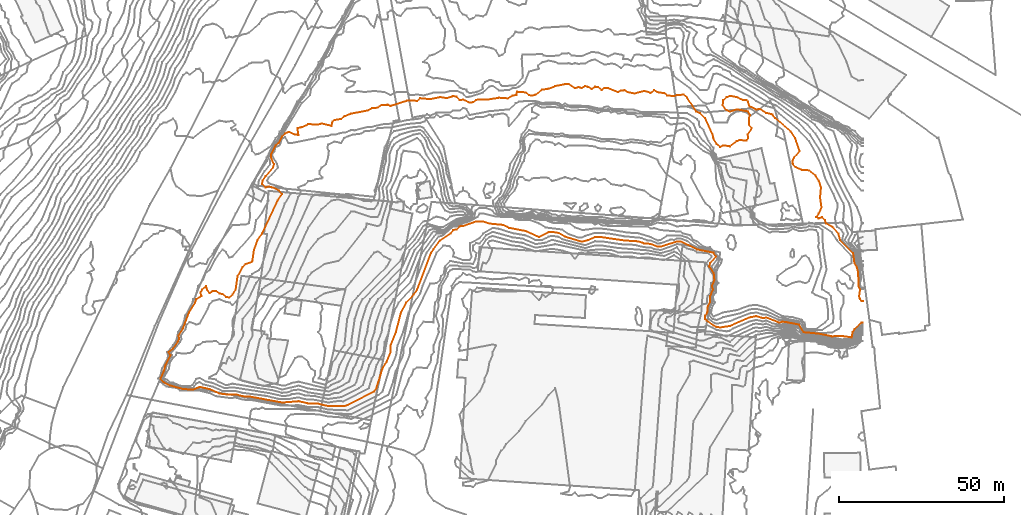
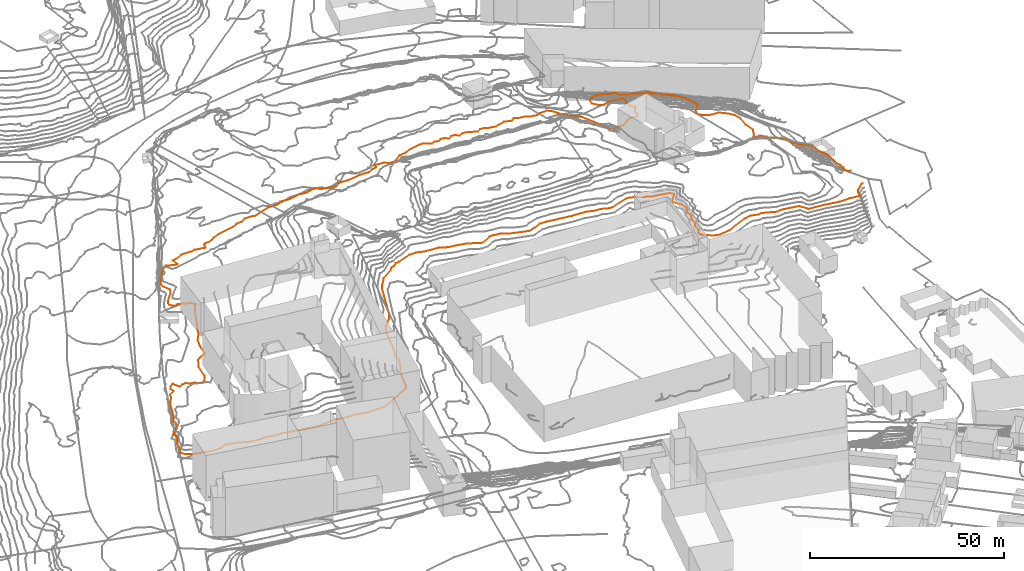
# Not in any storey, part 269 of 419: 1 proxy.
"""IFC2X3 model written with IfcOpenShell, lengths in metres."""

from ifc_helpers import new_model, entity, si_unit, frame, origin_with_axes, place, context, subcontext, project, element, save


model = new_model("IFC2X3")

# Units and contexts
model_context = context("Model", 3, precision=1e-05, world=origin_with_axes())
body_context = subcontext(model_context, "Body", "Model", "MODEL_VIEW")
ifc_project = project(units=[si_unit("AREAUNIT", "SQUARE_METRE"), si_unit("LENGTHUNIT", "METRE")], contexts=[model_context])

# Proxy
proxy_placement = place(None, frame((763.1907342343, 415.8976909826, 78.0), z_axis=(0.0, 0.0, 1.0), x_axis=(1.0, 0.0, 0.0)))
element("IfcBuildingElementProxy", 1, at=proxy_placement, Name="Contour 78.0 m", ObjectType="NOTDEFINED", context=body_context, shape_type="GeometricCurveSet", body=[
    entity("IfcGeometricCurveSet", [entity("IfcPolyline", [entity("IfcCartesianPoint", [213.4012861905, 16.9600016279, 0.0]), entity("IfcCartesianPoint", [212.9012861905, 16.9600016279, 0.0]), entity("IfcCartesianPoint", [210.7599845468, 15.0, 0.0]), entity("IfcCartesianPoint", [210.174395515, 14.0, 0.0]), entity("IfcCartesianPoint", [209.9012861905, 12.444444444, 0.0]), entity("IfcCartesianPoint", [206.9012861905, 12.8399963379, 0.0]), entity("IfcCartesianPoint", [203.9012861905, 12.7500007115, 0.0]), entity("IfcCartesianPoint", [199.9012861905, 13.5521478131, 0.0]), entity("IfcCartesianPoint", [195.3507264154, 14.0, 0.0]), entity("IfcCartesianPoint", [193.9012861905, 16.3101609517, 0.0]), entity("IfcCartesianPoint", [189.9012861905, 17.08556333, 0.0]), entity("IfcCartesianPoint", [188.9012861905, 17.1791897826, 0.0]), entity("IfcCartesianPoint", [187.9012861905, 16.8982045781, 0.0]), entity("IfcCartesianPoint", [183.9012861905, 18.4666666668, 0.0]), entity("IfcCartesianPoint", [182.9012861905, 18.2608677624, 0.0]), entity("IfcCartesianPoint", [180.9012861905, 18.8666638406, 0.0]), entity("IfcCartesianPoint", [178.9012861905, 18.51219308, 0.0]), entity("IfcCartesianPoint", [172.9012861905, 15.9117683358, 0.0]), entity("IfcCartesianPoint", [169.9012861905, 15.4333319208, 0.0]), entity("IfcCartesianPoint", [168.9012861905, 15.6285730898, 0.0]), entity("IfcCartesianPoint", [167.9012861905, 16.0175409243, 0.0]), entity("IfcCartesianPoint", [165.9012861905, 17.5242733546, 0.0]), entity("IfcCartesianPoint", [165.4161371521, 18.0, 0.0]), entity("IfcCartesianPoint", [165.3622789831, 19.0, 0.0]), entity("IfcCartesianPoint", [166.0580906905, 20.0, 0.0]), entity("IfcCartesianPoint", [166.2127610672, 22.0, 0.0]), entity("IfcCartesianPoint", [166.9012861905, 23.1395291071, 0.0]), entity("IfcCartesianPoint", [166.956041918, 25.0, 0.0]), entity("IfcCartesianPoint", [167.729313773, 27.0, 0.0]), entity("IfcCartesianPoint", [167.4710069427, 28.0, 0.0]), entity("IfcCartesianPoint", [168.2029741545, 30.0, 0.0]), entity("IfcCartesianPoint", [168.0184525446, 32.0, 0.0]), entity("IfcCartesianPoint", [166.6361702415, 34.0, 0.0]), entity("IfcCartesianPoint", [166.9012861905, 34.9661071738, 0.0]), entity("IfcCartesianPoint", [168.6512861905, 37.0, 0.0]), entity("IfcCartesianPoint", [167.9012861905, 38.1228065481, 0.0]), entity("IfcCartesianPoint", [162.9012861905, 39.1298687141, 0.0]), entity("IfcCartesianPoint", [157.9012861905, 41.5826063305, 0.0]), entity("IfcCartesianPoint", [156.9012861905, 41.5897427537, 0.0]), entity("IfcCartesianPoint", [151.9012861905, 39.959182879, 0.0]), entity("IfcCartesianPoint", [150.9012861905, 39.9719637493, 0.0]), entity("IfcCartesianPoint", [148.9012861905, 40.787236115, 0.0]), entity("IfcCartesianPoint", [146.9012861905, 40.9756138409, 0.0]), entity("IfcCartesianPoint", [144.9012861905, 41.5925929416, 0.0]), entity("IfcCartesianPoint", [140.9012861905, 41.8395090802, 0.0]), entity("IfcCartesianPoint", [133.9012861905, 42.8480979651, 0.0]), entity("IfcCartesianPoint", [131.9012861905, 42.897433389, 0.0]), entity("IfcCartesianPoint", [129.9012861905, 41.9871767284, 0.0]), entity("IfcCartesianPoint", [127.9012861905, 41.4732152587, 0.0]), entity("IfcCartesianPoint", [122.9012861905, 42.9793847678, 0.0]), entity("IfcCartesianPoint", [120.9012861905, 44.1264370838, 0.0]), entity("IfcCartesianPoint", [118.9012861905, 44.4404773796, 0.0]), entity("IfcCartesianPoint", [117.9012861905, 44.3866678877, 0.0]), entity("IfcCartesianPoint", [114.9012861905, 42.8640781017, 0.0]), entity("IfcCartesianPoint", [110.9012861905, 44.7073195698, 0.0]), entity("IfcCartesianPoint", [105.9012861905, 45.6875011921, 0.0]), entity("IfcCartesianPoint", [103.9012861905, 46.6000061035, 0.0]), entity("IfcCartesianPoint", [99.9012861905, 46.9629556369, 0.0]), entity("IfcCartesianPoint", [97.9012861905, 47.6499961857, 0.0]), entity("IfcCartesianPoint", [95.9012861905, 47.6428610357, 0.0]), entity("IfcCartesianPoint", [91.9012861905, 46.2592576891, 0.0]), entity("IfcCartesianPoint", [90.9012861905, 46.1519595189, 0.0]), entity("IfcCartesianPoint", [89.9012861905, 45.2500015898, 0.0]), entity("IfcCartesianPoint", [88.9335506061, 45.0, 0.0]), entity("IfcCartesianPoint", [88.0679528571, 44.0, 0.0]), entity("IfcCartesianPoint", [84.9012861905, 41.9090858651, 0.0]), entity("IfcCartesianPoint", [82.9012861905, 39.2727285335, 0.0]), entity("IfcCartesianPoint", [82.1235131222, 38.0, 0.0]), entity("IfcCartesianPoint", [77.9481593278, 27.0, 0.0]), entity("IfcCartesianPoint", [76.9012861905, 25.3902493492, 0.0]), entity("IfcCartesianPoint", [74.6512861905, 23.0, 0.0]), entity("IfcCartesianPoint", [73.0175722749, 20.0, 0.0]), entity("IfcCartesianPoint", [71.5099804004, 14.0, 0.0]), entity("IfcCartesianPoint", [69.8620766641, 10.0, 0.0]), entity("IfcCartesianPoint", [69.881281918, 8.0, 0.0]), entity("IfcCartesianPoint", [68.6404101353, 5.0, 0.0]), entity("IfcCartesianPoint", [67.390653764, 3.0, 0.0]), entity("IfcCartesianPoint", [65.5751952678, -3.0, 0.0]), entity("IfcCartesianPoint", [64.9012861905, -4.000001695, 0.0]), entity("IfcCartesianPoint", [56.9012861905, -8.050845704, 0.0]), entity("IfcCartesianPoint", [55.9012861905, -8.424997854, 0.0]), entity("IfcCartesianPoint", [50.9012861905, -8.4361729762, 0.0]), entity("IfcCartesianPoint", [47.9012861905, -7.7291641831, 0.0]), entity("IfcCartesianPoint", [44.9012861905, -7.6067430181, 0.0]), entity("IfcCartesianPoint", [41.9012861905, -6.9642870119, 0.0]), entity("IfcCartesianPoint", [36.9012861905, -7.3529402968, 0.0]), entity("IfcCartesianPoint", [26.9012861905, -5.5145625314, 0.0]), entity("IfcCartesianPoint", [24.9012861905, -5.447917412, 0.0]), entity("IfcCartesianPoint", [22.9012861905, -4.871289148, 0.0]), entity("IfcCartesianPoint", [20.9012861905, -4.9795951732, 0.0]), entity("IfcCartesianPoint", [17.9012861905, -4.6346183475, 0.0]), entity("IfcCartesianPoint", [14.9012861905, -3.2978702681, 0.0]), entity("IfcCartesianPoint", [11.9012861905, -2.6029462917, 0.0]), entity("IfcCartesianPoint", [9.9012861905, -3.4369372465, 0.0]), entity("IfcCartesianPoint", [6.9012861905, -3.2571411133, 0.0]), entity("IfcCartesianPoint", [2.9012861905, -2.1863372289, 0.0]), entity("IfcCartesianPoint", [0.9012861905, -1.1895432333, 0.0]), entity("IfcCartesianPoint", [0.0, 0.0, 0.0]), entity("IfcCartesianPoint", [1.0133936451, 2.0, 0.0]), entity("IfcCartesianPoint", [1.5139340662, 4.0, 0.0]), entity("IfcCartesianPoint", [3.1012861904, 7.0, 0.0]), entity("IfcCartesianPoint", [2.4521635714, 8.0, 0.0]), entity("IfcCartesianPoint", [3.7793340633, 9.0, 0.0]), entity("IfcCartesianPoint", [5.2526362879, 11.0, 0.0]), entity("IfcCartesianPoint", [5.6560029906, 12.0, 0.0]), entity("IfcCartesianPoint", [5.5504086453, 13.0, 0.0]), entity("IfcCartesianPoint", [6.7557146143, 15.0, 0.0]), entity("IfcCartesianPoint", [8.6383761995, 20.0, 0.0]), entity("IfcCartesianPoint", [10.5501411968, 23.0, 0.0]), entity("IfcCartesianPoint", [10.8737642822, 24.0, 0.0]), entity("IfcCartesianPoint", [12.4665093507, 25.0, 0.0]), entity("IfcCartesianPoint", [12.186990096, 26.0, 0.0]), entity("IfcCartesianPoint", [12.7089683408, 27.0, 0.0]), entity("IfcCartesianPoint", [13.9012861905, 28.0000090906, 0.0]), entity("IfcCartesianPoint", [14.1740008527, 27.0, 0.0]), entity("IfcCartesianPoint", [14.9012861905, 25.9166507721, 0.0]), entity("IfcCartesianPoint", [15.9012861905, 26.434784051, 0.0]), entity("IfcCartesianPoint", [16.9012861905, 26.441175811, 0.0]), entity("IfcCartesianPoint", [17.9012861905, 25.7460279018, 0.0]), entity("IfcCartesianPoint", [18.9012861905, 25.566036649, 0.0]), entity("IfcCartesianPoint", [19.9012861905, 24.7058805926, 0.0]), entity("IfcCartesianPoint", [20.9012861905, 24.5135163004, 0.0]), entity("IfcCartesianPoint", [21.9012861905, 25.4285776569, 0.0]), entity("IfcCartesianPoint", [22.8457188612, 27.0, 0.0]), entity("IfcCartesianPoint", [23.4306821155, 31.0, 0.0]), entity("IfcCartesianPoint", [24.9012861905, 33.8000305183, 0.0]), entity("IfcCartesianPoint", [25.9012861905, 34.7000076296, 0.0]), entity("IfcCartesianPoint", [27.9012861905, 35.39996948, 0.0]), entity("IfcCartesianPoint", [28.4012736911, 39.0, 0.0]), entity("IfcCartesianPoint", [29.4568511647, 42.0, 0.0]), entity("IfcCartesianPoint", [30.8718684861, 44.0, 0.0]), entity("IfcCartesianPoint", [35.5591856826, 54.0, 0.0]), entity("IfcCartesianPoint", [36.9012824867, 56.0, 0.0]), entity("IfcCartesianPoint", [36.0777514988, 57.0, 0.0]), entity("IfcCartesianPoint", [33.9012821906, 58.0, 0.0]), entity("IfcCartesianPoint", [32.9012861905, 58.2232137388, 0.0]), entity("IfcCartesianPoint", [31.8642418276, 58.0, 0.0]), entity("IfcCartesianPoint", [30.8451029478, 59.0, 0.0]), entity("IfcCartesianPoint", [31.0423128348, 60.0, 0.0]), entity("IfcCartesianPoint", [31.9012861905, 61.3461566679, 0.0]), entity("IfcCartesianPoint", [34.15935547, 64.0, 0.0]), entity("IfcCartesianPoint", [34.4976156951, 65.0, 0.0]), entity("IfcCartesianPoint", [33.6396050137, 67.0, 0.0]), entity("IfcCartesianPoint", [33.5497508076, 68.0, 0.0]), entity("IfcCartesianPoint", [34.9012861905, 70.6475764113, 0.0]), entity("IfcCartesianPoint", [35.9012861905, 71.4634131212, 0.0]), entity("IfcCartesianPoint", [36.9012861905, 73.3715584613, 0.0]), entity("IfcCartesianPoint", [37.9012861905, 74.3557715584, 0.0]), entity("IfcCartesianPoint", [38.9012861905, 74.8196713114, 0.0]), entity("IfcCartesianPoint", [40.9012861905, 74.0000249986, 0.0]), entity("IfcCartesianPoint", [41.9012861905, 73.8888700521, 0.0]), entity("IfcCartesianPoint", [41.60129382, 76.0, 0.0]), entity("IfcCartesianPoint", [42.9012861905, 76.2272853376, 0.0]), entity("IfcCartesianPoint", [44.9012861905, 77.1538235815, 0.0]), entity("IfcCartesianPoint", [47.9012861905, 77.0769366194, 0.0]), entity("IfcCartesianPoint", [48.9012861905, 77.357166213, 0.0]), entity("IfcCartesianPoint", [51.9012861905, 76.6665818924, 0.0]), entity("IfcCartesianPoint", [52.2345771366, 78.0, 0.0]), entity("IfcCartesianPoint", [52.9012861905, 78.4444350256, 0.0]), entity("IfcCartesianPoint", [54.9012861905, 78.8000101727, 0.0]), entity("IfcCartesianPoint", [55.9012861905, 79.5999847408, 0.0]), entity("IfcCartesianPoint", [57.9012861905, 80.357166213, 0.0]), entity("IfcCartesianPoint", [62.9012861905, 81.3333502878, 0.0]), entity("IfcCartesianPoint", [64.2347042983, 82.0, 0.0]), entity("IfcCartesianPoint", [65.9012861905, 82.19231785, 0.0]), entity("IfcCartesianPoint", [67.1513338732, 83.0, 0.0]), entity("IfcCartesianPoint", [68.9012861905, 83.0526231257, 0.0]), entity("IfcCartesianPoint", [69.9012861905, 82.7142960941, 0.0]), entity("IfcCartesianPoint", [74.9012861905, 84.2978702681, 0.0]), entity("IfcCartesianPoint", [77.9012861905, 84.2580661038, 0.0]), entity("IfcCartesianPoint", [78.9012861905, 85.0309265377, 0.0]), entity("IfcCartesianPoint", [81.9012861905, 84.75, 0.0]), entity("IfcCartesianPoint", [84.9012861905, 85.3749940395, 0.0]), entity("IfcCartesianPoint", [86.9012861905, 85.0937462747, 0.0]), entity("IfcCartesianPoint", [88.9012861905, 85.6470693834, 0.0]), entity("IfcCartesianPoint", [89.9012861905, 85.60003052, 0.0]), entity("IfcCartesianPoint", [90.9012861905, 84.5000124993, 0.0]), entity("IfcCartesianPoint", [91.9012861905, 84.5999999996, 0.0]), entity("IfcCartesianPoint", [93.9012861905, 83.7000076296, 0.0]), entity("IfcCartesianPoint", [94.9012861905, 83.833340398, 0.0]), entity("IfcCartesianPoint", [95.9012861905, 84.5333401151, 0.0]), entity("IfcCartesianPoint", [96.9012861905, 84.7200012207, 0.0]), entity("IfcCartesianPoint", [98.9012861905, 84.5833174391, 0.0]), entity("IfcCartesianPoint", [102.9012861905, 85.1874970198, 0.0]), entity("IfcCartesianPoint", [105.4012362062, 85.0, 0.0]), entity("IfcCartesianPoint", [106.9012861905, 85.8666836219, 0.0]), entity("IfcCartesianPoint", [108.1234801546, 86.0, 0.0]), entity("IfcCartesianPoint", [108.2347042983, 87.0, 0.0]), entity("IfcCartesianPoint", [110.9012861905, 86.8095186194, 0.0]), entity("IfcCartesianPoint", [111.9012861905, 85.9599914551, 0.0]), entity("IfcCartesianPoint", [112.9012861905, 85.8333545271, 0.0]), entity("IfcCartesianPoint", [113.9012861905, 86.1111299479, 0.0]), entity("IfcCartesianPoint", [115.9012861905, 87.6400146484, 0.0]), entity("IfcCartesianPoint", [117.9012861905, 87.9142888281, 0.0]), entity("IfcCartesianPoint", [119.9012861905, 88.7400054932, 0.0]), entity("IfcCartesianPoint", [122.9012861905, 89.309524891, 0.0]), entity("IfcCartesianPoint", [123.9012861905, 89.2963025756, 0.0]), entity("IfcCartesianPoint", [125.9012861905, 88.105266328, 0.0]), entity("IfcCartesianPoint", [126.9012861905, 88.4310331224, 0.0]), entity("IfcCartesianPoint", [127.9012861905, 88.1578894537, 0.0]), entity("IfcCartesianPoint", [128.9012861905, 88.7000009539, 0.0]), entity("IfcCartesianPoint", [129.9012861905, 88.5070437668, 0.0]), entity("IfcCartesianPoint", [130.9012861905, 87.833333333, 0.0]), entity("IfcCartesianPoint", [131.9012861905, 88.5294108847, 0.0]), entity("IfcCartesianPoint", [132.9012861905, 88.3999938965, 0.0]), entity("IfcCartesianPoint", [133.9012861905, 87.581394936, 0.0]), entity("IfcCartesianPoint", [134.9012861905, 88.1555559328, 0.0]), entity("IfcCartesianPoint", [135.9012861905, 88.0882326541, 0.0]), entity("IfcCartesianPoint", [138.9012861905, 86.8600006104, 0.0]), entity("IfcCartesianPoint", [139.9012861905, 87.418185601, 0.0]), entity("IfcCartesianPoint", [140.9012861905, 87.4583326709, 0.0]), entity("IfcCartesianPoint", [141.9012861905, 86.9090951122, 0.0]), entity("IfcCartesianPoint", [143.9012861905, 86.4666677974, 0.0]), entity("IfcCartesianPoint", [146.9012861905, 87.2631705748, 0.0]), entity("IfcCartesianPoint", [148.9012861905, 86.648651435, 0.0]), entity("IfcCartesianPoint", [149.9012861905, 87.4545359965, 0.0]), entity("IfcCartesianPoint", [150.9012861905, 86.8636403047, 0.0]), entity("IfcCartesianPoint", [152.9012861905, 86.5999999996, 0.0]), entity("IfcCartesianPoint", [153.9012861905, 85.8983085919, 0.0]), entity("IfcCartesianPoint", [155.9012861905, 85.6333350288, 0.0]), entity("IfcCartesianPoint", [156.9012861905, 86.0000024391, 0.0]), entity("IfcCartesianPoint", [158.9012861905, 86.1463369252, 0.0]), entity("IfcCartesianPoint", [159.9012861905, 85.2857039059, 0.0]), entity("IfcCartesianPoint", [162.7108048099, 81.0, 0.0]), entity("IfcCartesianPoint", [163.9012861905, 80.5151431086, 0.0]), entity("IfcCartesianPoint", [165.4012895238, 79.0, 0.0]), entity("IfcCartesianPoint", [167.6705259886, 74.0, 0.0]), entity("IfcCartesianPoint", [167.9012861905, 72.8421137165, 0.0]), entity("IfcCartesianPoint", [168.9012861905, 71.1250238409, 0.0]), entity("IfcCartesianPoint", [169.9012861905, 70.285667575, 0.0]), entity("IfcCartesianPoint", [170.9012861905, 70.7499523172, 0.0]), entity("IfcCartesianPoint", [172.9012861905, 70.4285558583, 0.0]), entity("IfcCartesianPoint", [174.9012861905, 72.0000090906, 0.0]), entity("IfcCartesianPoint", [175.9012861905, 72.3333502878, 0.0]), entity("IfcCartesianPoint", [177.9012861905, 72.1666878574, 0.0]), entity("IfcCartesianPoint", [178.4568511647, 73.0, 0.0]), entity("IfcCartesianPoint", [178.3179687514, 74.0, 0.0]), entity("IfcCartesianPoint", [179.5679528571, 76.0, 0.0]), entity("IfcCartesianPoint", [178.6790922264, 77.0, 0.0]), entity("IfcCartesianPoint", [178.7012963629, 79.0, 0.0]), entity("IfcCartesianPoint", [179.0263100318, 80.0, 0.0]), entity("IfcCartesianPoint", [178.5013167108, 81.0, 0.0]), entity("IfcCartesianPoint", [174.9012861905, 81.6666497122, 0.0]), entity("IfcCartesianPoint", [172.9012861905, 80.9428664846, 0.0]), entity("IfcCartesianPoint", [171.9012861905, 81.4000000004, 0.0]), entity("IfcCartesianPoint", [170.7120992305, 83.0, 0.0]), entity("IfcCartesianPoint", [170.9012861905, 84.4285558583, 0.0]), entity("IfcCartesianPoint", [171.9012861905, 85.3333502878, 0.0]), entity("IfcCartesianPoint", [172.9012861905, 85.7778060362, 0.0]), entity("IfcCartesianPoint", [174.9012861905, 85.3703693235, 0.0]), entity("IfcCartesianPoint", [176.9012861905, 84.4761852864, 0.0]), entity("IfcCartesianPoint", [177.9012861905, 84.4468054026, 0.0]), entity("IfcCartesianPoint", [178.3679539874, 84.0, 0.0]), entity("IfcCartesianPoint", [178.9012861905, 82.5666692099, 0.0]), entity("IfcCartesianPoint", [180.9012861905, 81.6315852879, 0.0]), entity("IfcCartesianPoint", [181.9012861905, 81.8000305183, 0.0]), entity("IfcCartesianPoint", [183.9012861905, 80.5909138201, 0.0]), entity("IfcCartesianPoint", [185.9012861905, 80.0999847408, 0.0]), entity("IfcCartesianPoint", [186.5887742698, 79.0, 0.0]), entity("IfcCartesianPoint", [191.3812971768, 75.0, 0.0]), entity("IfcCartesianPoint", [192.7346407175, 73.0, 0.0]), entity("IfcCartesianPoint", [194.0679457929, 69.0, 0.0]), entity("IfcCartesianPoint", [192.3457400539, 67.0, 0.0]), entity("IfcCartesianPoint", [191.9012933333, 66.0, 0.0]), entity("IfcCartesianPoint", [192.044119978, 65.0, 0.0]), entity("IfcCartesianPoint", [192.9012861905, 64.0769366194, 0.0]), entity("IfcCartesianPoint", [194.9012861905, 63.2162195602, 0.0]), entity("IfcCartesianPoint", [196.9012861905, 63.1499961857, 0.0]), entity("IfcCartesianPoint", [198.9012861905, 61.5333401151, 0.0]), entity("IfcCartesianPoint", [199.9012861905, 60.1249821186, 0.0]), entity("IfcCartesianPoint", [200.5798692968, 58.0, 0.0]), entity("IfcCartesianPoint", [200.3012861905, 55.0, 0.0]), entity("IfcCartesianPoint", [200.7345983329, 52.0, 0.0]), entity("IfcCartesianPoint", [199.9012961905, 50.0, 0.0]), entity("IfcCartesianPoint", [199.1393883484, 49.0, 0.0]), entity("IfcCartesianPoint", [199.9012861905, 48.589741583, 0.0]), entity("IfcCartesianPoint", [200.9012861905, 48.8947516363, 0.0]), entity("IfcCartesianPoint", [201.7512900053, 48.0, 0.0]), entity("IfcCartesianPoint", [202.1512861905, 47.0, 0.0]), entity("IfcCartesianPoint", [204.0787057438, 46.0, 0.0]), entity("IfcCartesianPoint", [205.8679583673, 44.0, 0.0]), entity("IfcCartesianPoint", [206.3610566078, 42.0, 0.0]), entity("IfcCartesianPoint", [210.3451653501, 38.0, 0.0]), entity("IfcCartesianPoint", [210.7416206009, 35.0, 0.0]), entity("IfcCartesianPoint", [211.3981007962, 34.0, 0.0]), entity("IfcCartesianPoint", [211.9012861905, 32.1562477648, 0.0]), entity("IfcCartesianPoint", [211.9135306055, 28.0, 0.0]), entity("IfcCartesianPoint", [212.4802330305, 27.0, 0.0]), entity("IfcCartesianPoint", [212.1384295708, 25.0, 0.0]), entity("IfcCartesianPoint", [212.4455897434, 24.0, 0.0]), entity("IfcCartesianPoint", [212.9012861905, 23.5263163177, 0.0]), entity("IfcCartesianPoint", [213.4012861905, 23.5263163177, 0.0])])]),
])

save(model, "model.ifc")
